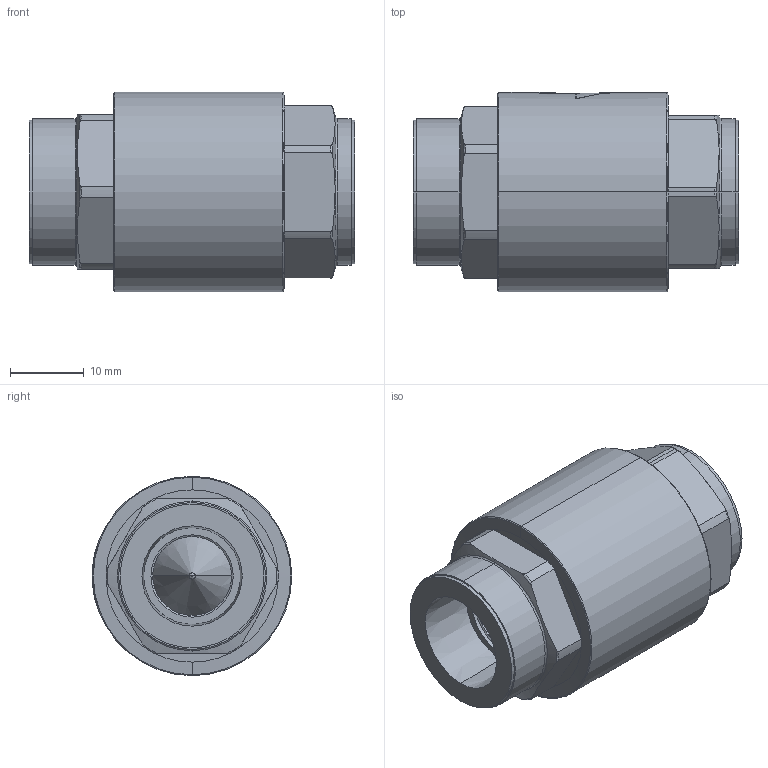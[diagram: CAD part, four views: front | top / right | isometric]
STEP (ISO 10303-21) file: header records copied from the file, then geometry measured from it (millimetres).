
FILE_DESCRIPTION (( 'STEP AP203' ), '1' );
FILE_NAME ('BC-2.STEP', '2020-01-23T22:26:14', ( '' ), ( '' ), 'SwSTEP 2.0', 'SolidWorks 2017', '' );
FILE_SCHEMA (( 'CONFIG_CONTROL_DESIGN' ));
Length unit declared in the file: inch
Products named in the file (10): BC-2; BC-2-BODY; BC-2-SEAT; BC-2-PISTON; BC-2-SPRING
Assembly tree (5 placements, depth 2):
  BC-2
    BC-2-BODY
    BC-2-SEAT
    BC-2-PISTON
    BC-2-SPRING
  BC-2-BODY
  BC-2-SEAT
  BC-2-PISTON
  BC-2
    BC-2-SPRING
Bounding box: 44.09 x 27 x 26.97 mm (x, y, z)
Volume: 9068.4 mm3; surface area: 8769.7 mm2
Topology: 4 solids, 4 shells, 169 faces, 397 edges, 244 vertices
Faces by surface type: plane 58, cylinder 56, torus 29, cone 20, bspline 6
Entity records: 8184 total; most frequent: CARTESIAN_POINT 3323, DIRECTION 888, ORIENTED_EDGE 788, EDGE_CURVE 394, AXIS2_PLACEMENT_3D 374, VERTEX_POINT 242, CIRCLE 200, EDGE_LOOP 186
